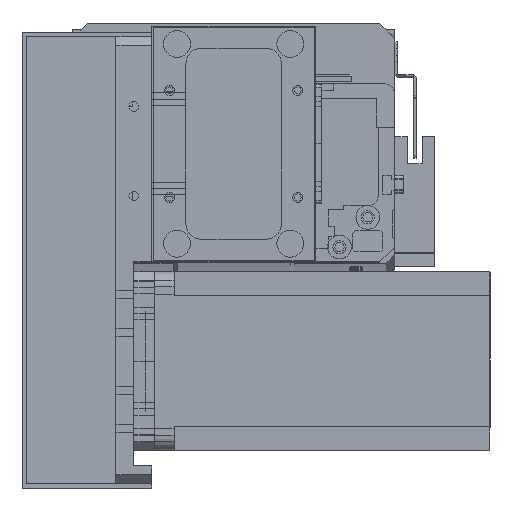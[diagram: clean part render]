
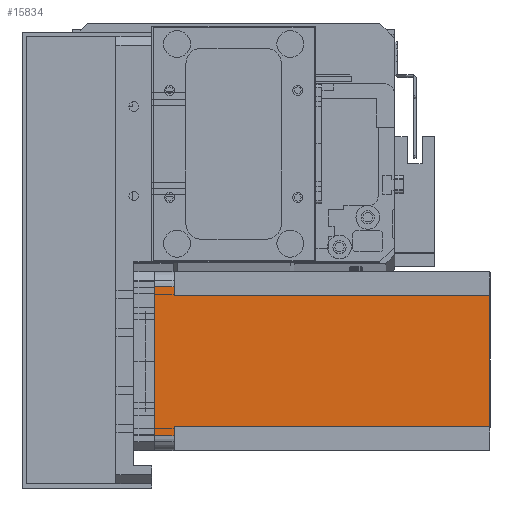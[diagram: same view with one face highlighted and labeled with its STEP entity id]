
A CAD part, top view. The second image highlights one B-rep face of the part: STEP entity #15834.
In plain terms, the highlighted planar face has unit normal (0, 0, 1) as drawn and (0, 1, 0) by its records, which use the part's own axes.
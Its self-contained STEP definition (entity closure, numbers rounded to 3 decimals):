
#67 = ORIENTED_EDGE ( 'NONE', *, *, #33253, .F. ) ;
#304 = CARTESIAN_POINT ( 'NONE',  ( 8., 60., -6.5 ) ) ;
#1761 = CARTESIAN_POINT ( 'NONE',  ( 0., 60., -112.5 ) ) ;
#1939 = VECTOR ( 'NONE', #23071, 1000. ) ;
#3494 = VECTOR ( 'NONE', #11188, 1000. ) ;
#3820 = VERTEX_POINT ( 'NONE', #16085 ) ;
#4576 = VECTOR ( 'NONE', #31741, 1000. ) ;
#4923 = CARTESIAN_POINT ( 'NONE',  ( 8., 60., -112.5 ) ) ;
#5016 = EDGE_CURVE ( 'NONE', #3820, #23639, #5105, .T. ) ;
#5105 = LINE ( 'NONE', #20679, #18595 ) ;
#5437 = LINE ( 'NONE', #26296, #4576 ) ;
#5521 = DIRECTION ( 'NONE',  ( 0., 1., 0. ) ) ;
#5587 = ORIENTED_EDGE ( 'NONE', *, *, #25658, .T. ) ;
#5706 = CARTESIAN_POINT ( 'NONE',  ( 5., 60., -112.5 ) ) ;
#6942 = CARTESIAN_POINT ( 'NONE',  ( 8., 60., -112.5 ) ) ;
#7648 = EDGE_CURVE ( 'NONE', #22436, #15704, #29771, .T. ) ;
#8038 = ORIENTED_EDGE ( 'NONE', *, *, #26747, .F. ) ;
#8990 = AXIS2_PLACEMENT_3D ( 'NONE', #32392, #5521, #24365 ) ;
#9129 = ORIENTED_EDGE ( 'NONE', *, *, #21470, .T. ) ;
#9152 = VECTOR ( 'NONE', #29477, 1000. ) ;
#10046 = CARTESIAN_POINT ( 'NONE',  ( 52., 60., -112.5 ) ) ;
#10527 = VECTOR ( 'NONE', #31454, 1000. ) ;
#11188 = DIRECTION ( 'NONE',  ( -1., 0., 0. ) ) ;
#11867 = CARTESIAN_POINT ( 'NONE',  ( 52., 60., -112.5 ) ) ;
#12253 = VERTEX_POINT ( 'NONE', #29368 ) ;
#12760 = CARTESIAN_POINT ( 'NONE',  ( 8., 60., -6.5 ) ) ;
#12806 = DIRECTION ( 'NONE',  ( -1., 0., 0. ) ) ;
#13402 = ORIENTED_EDGE ( 'NONE', *, *, #26934, .T. ) ;
#15098 = LINE ( 'NONE', #10046, #22238 ) ;
#15704 = VERTEX_POINT ( 'NONE', #4923 ) ;
#15834 = ADVANCED_FACE ( 'NONE', ( #19977 ), #21651, .T. ) ;
#16085 = CARTESIAN_POINT ( 'NONE',  ( 55., 60., 0. ) ) ;
#16916 = VERTEX_POINT ( 'NONE', #11867 ) ;
#18595 = VECTOR ( 'NONE', #12806, 1000. ) ;
#18606 = EDGE_CURVE ( 'NONE', #25785, #23639, #24341, .T. ) ;
#19977 = FACE_OUTER_BOUND ( 'NONE', #32701, .T. ) ;
#20679 = CARTESIAN_POINT ( 'NONE',  ( 0., 60., 0. ) ) ;
#20947 = VERTEX_POINT ( 'NONE', #30514 ) ;
#21136 = ORIENTED_EDGE ( 'NONE', *, *, #5016, .F. ) ;
#21470 = EDGE_CURVE ( 'NONE', #22436, #25785, #32187, .T. ) ;
#21651 = PLANE ( 'NONE',  #8990 ) ;
#21839 = DIRECTION ( 'NONE',  ( 0., 0., 1. ) ) ;
#22238 = VECTOR ( 'NONE', #31633, 1000. ) ;
#22436 = VERTEX_POINT ( 'NONE', #12760 ) ;
#23071 = DIRECTION ( 'NONE',  ( 0., 0., -1. ) ) ;
#23639 = VERTEX_POINT ( 'NONE', #31402 ) ;
#24341 = LINE ( 'NONE', #5706, #31518 ) ;
#24365 = DIRECTION ( 'NONE',  ( 0., 0., 1. ) ) ;
#25658 = EDGE_CURVE ( 'NONE', #16916, #15704, #32035, .T. ) ;
#25785 = VERTEX_POINT ( 'NONE', #29193 ) ;
#26296 = CARTESIAN_POINT ( 'NONE',  ( 52., 60., -6.5 ) ) ;
#26747 = EDGE_CURVE ( 'NONE', #16916, #12253, #15098, .T. ) ;
#26934 = EDGE_CURVE ( 'NONE', #3820, #20947, #30649, .T. ) ;
#28743 = ORIENTED_EDGE ( 'NONE', *, *, #7648, .F. ) ;
#29193 = CARTESIAN_POINT ( 'NONE',  ( 5., 60., -6.5 ) ) ;
#29368 = CARTESIAN_POINT ( 'NONE',  ( 52., 60., -6.5 ) ) ;
#29477 = DIRECTION ( 'NONE',  ( 0., 0., -1. ) ) ;
#29771 = LINE ( 'NONE', #6942, #1939 ) ;
#30514 = CARTESIAN_POINT ( 'NONE',  ( 55., 60., -6.5 ) ) ;
#30649 = LINE ( 'NONE', #32214, #9152 ) ;
#31402 = CARTESIAN_POINT ( 'NONE',  ( 5., 60., 0. ) ) ;
#31454 = DIRECTION ( 'NONE',  ( -1., 0., 0. ) ) ;
#31518 = VECTOR ( 'NONE', #21839, 1000. ) ;
#31633 = DIRECTION ( 'NONE',  ( 0., 0., 1. ) ) ;
#31741 = DIRECTION ( 'NONE',  ( 1., 0., 0. ) ) ;
#32004 = ORIENTED_EDGE ( 'NONE', *, *, #18606, .T. ) ;
#32035 = LINE ( 'NONE', #1761, #10527 ) ;
#32187 = LINE ( 'NONE', #304, #3494 ) ;
#32214 = CARTESIAN_POINT ( 'NONE',  ( 55., 60., -112.5 ) ) ;
#32392 = CARTESIAN_POINT ( 'NONE',  ( 0., 60., -112.5 ) ) ;
#32701 = EDGE_LOOP ( 'NONE', ( #21136, #13402, #67, #8038, #5587, #28743, #9129, #32004 ) ) ;
#33253 = EDGE_CURVE ( 'NONE', #12253, #20947, #5437, .T. ) ;
